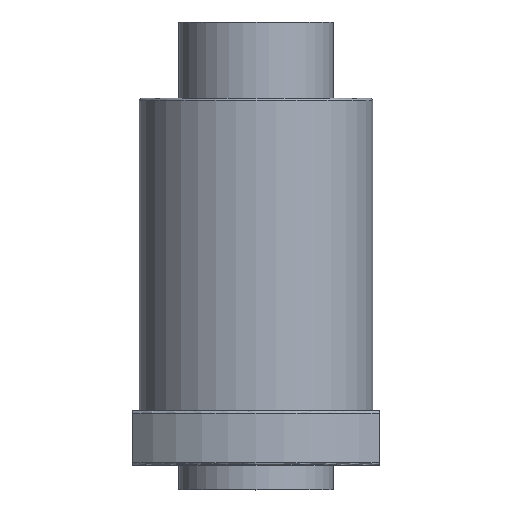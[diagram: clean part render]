
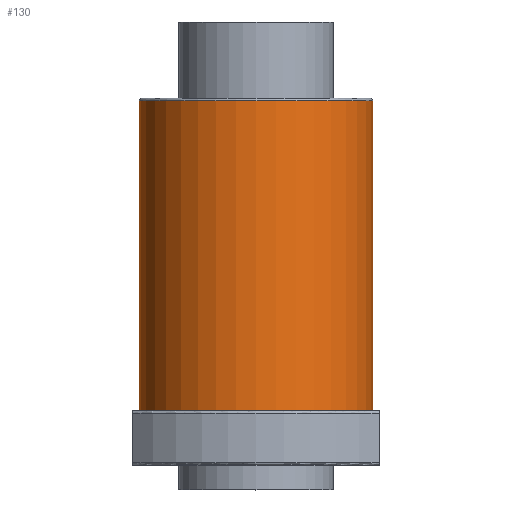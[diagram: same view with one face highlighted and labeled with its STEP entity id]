
A CAD part, top view. The second image highlights one B-rep face of the part: STEP entity #130.
In plain terms, the highlighted cylindrical face has radius 47.5 mm (diameter 95 mm), a full revolution.
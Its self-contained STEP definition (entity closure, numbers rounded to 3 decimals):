
#130=ADVANCED_FACE('',(#216,#217),#173,.T.);
#173=CYLINDRICAL_SURFACE('',#771,47.5);
#216=FACE_BOUND('',#316,.T.);
#217=FACE_BOUND('',#317,.T.);
#316=EDGE_LOOP('',(#446));
#317=EDGE_LOOP('',(#447));
#446=ORIENTED_EDGE('',*,*,#641,.T.);
#447=ORIENTED_EDGE('',*,*,#627,.T.);
#560=VERTEX_POINT('',#1258);
#570=VERTEX_POINT('',#1284);
#627=EDGE_CURVE('',#560,#560,#682,.T.);
#641=EDGE_CURVE('',#570,#570,#696,.T.);
#682=CIRCLE('',#754,47.5);
#696=CIRCLE('',#770,47.5);
#754=AXIS2_PLACEMENT_3D('',#1257,#916,#917);
#770=AXIS2_PLACEMENT_3D('',#1283,#948,#949);
#771=AXIS2_PLACEMENT_3D('',#1285,#950,#951);
#916=DIRECTION('',(0.,1.,0.));
#917=DIRECTION('',(0.,0.,1.));
#948=DIRECTION('',(0.,-1.,0.));
#949=DIRECTION('',(0.,0.,-1.));
#950=DIRECTION('',(0.,-1.,0.));
#951=DIRECTION('',(0.,0.,-1.));
#1257=CARTESIAN_POINT('',(0.,22.,0.));
#1258=CARTESIAN_POINT('',(0.,22.,47.5));
#1283=CARTESIAN_POINT('',(0.,148.,0.));
#1284=CARTESIAN_POINT('',(0.,148.,-47.5));
#1285=CARTESIAN_POINT('',(0.,149.,0.));
